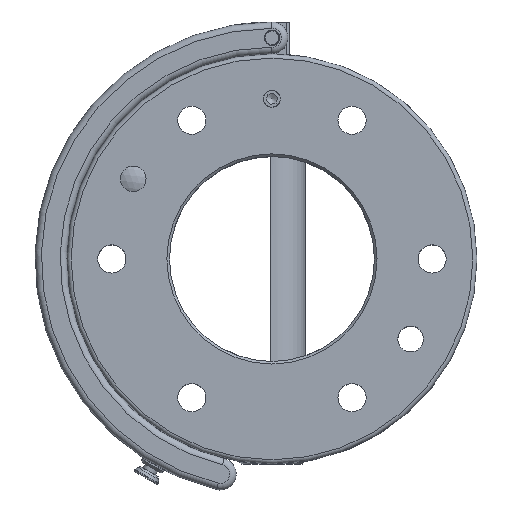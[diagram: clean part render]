
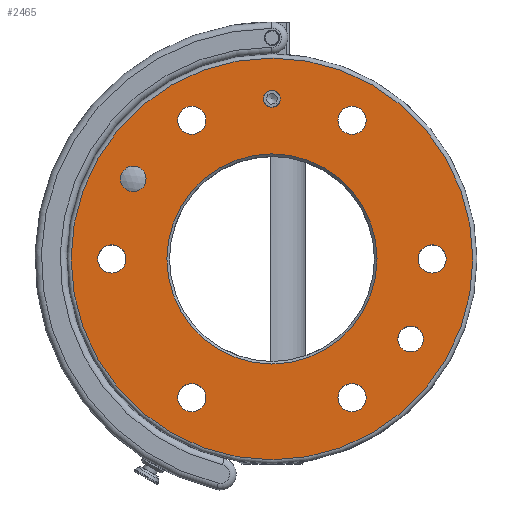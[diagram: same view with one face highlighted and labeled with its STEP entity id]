
A CAD part, top view. The second image highlights one B-rep face of the part: STEP entity #2465.
In plain terms, the highlighted planar face has unit normal (0, 0, 1).
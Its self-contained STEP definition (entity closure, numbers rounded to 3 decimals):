
#114=FACE_BOUND('',#592,.T.);
#115=FACE_BOUND('',#593,.T.);
#116=FACE_BOUND('',#594,.T.);
#117=FACE_BOUND('',#595,.T.);
#118=FACE_BOUND('',#596,.T.);
#119=FACE_BOUND('',#597,.T.);
#120=FACE_BOUND('',#598,.T.);
#121=FACE_BOUND('',#599,.T.);
#122=FACE_BOUND('',#600,.T.);
#123=FACE_BOUND('',#601,.T.);
#400=PLANE('',#2648);
#447=FACE_OUTER_BOUND('',#591,.T.);
#591=EDGE_LOOP('',(#1628));
#592=EDGE_LOOP('',(#1629));
#593=EDGE_LOOP('',(#1630));
#594=EDGE_LOOP('',(#1631));
#595=EDGE_LOOP('',(#1632));
#596=EDGE_LOOP('',(#1633));
#597=EDGE_LOOP('',(#1634));
#598=EDGE_LOOP('',(#1635));
#599=EDGE_LOOP('',(#1636,#1637));
#600=EDGE_LOOP('',(#1638,#1639));
#601=EDGE_LOOP('',(#1640,#1641));
#783=CIRCLE('',#2647,78.4);
#784=CIRCLE('',#2649,41.);
#785=CIRCLE('',#2650,5.5);
#786=CIRCLE('',#2651,5.5);
#787=CIRCLE('',#2652,5.5);
#788=CIRCLE('',#2653,5.5);
#789=CIRCLE('',#2654,5.5);
#790=CIRCLE('',#2655,5.5);
#791=CIRCLE('',#2656,5.);
#792=CIRCLE('',#2657,5.);
#793=CIRCLE('',#2658,5.);
#794=CIRCLE('',#2659,5.);
#795=CIRCLE('',#2660,3.324);
#796=CIRCLE('',#2661,3.324);
#1014=VERTEX_POINT('',#3814);
#1015=VERTEX_POINT('',#3818);
#1016=VERTEX_POINT('',#3820);
#1017=VERTEX_POINT('',#3822);
#1018=VERTEX_POINT('',#3824);
#1019=VERTEX_POINT('',#3826);
#1020=VERTEX_POINT('',#3828);
#1021=VERTEX_POINT('',#3830);
#1022=VERTEX_POINT('',#3832);
#1023=VERTEX_POINT('',#3833);
#1024=VERTEX_POINT('',#3836);
#1025=VERTEX_POINT('',#3837);
#1026=VERTEX_POINT('',#3840);
#1027=VERTEX_POINT('',#3841);
#1267=EDGE_CURVE('',#1014,#1014,#783,.T.);
#1268=EDGE_CURVE('',#1015,#1015,#784,.T.);
#1269=EDGE_CURVE('',#1016,#1016,#785,.T.);
#1270=EDGE_CURVE('',#1017,#1017,#786,.T.);
#1271=EDGE_CURVE('',#1018,#1018,#787,.T.);
#1272=EDGE_CURVE('',#1019,#1019,#788,.T.);
#1273=EDGE_CURVE('',#1020,#1020,#789,.T.);
#1274=EDGE_CURVE('',#1021,#1021,#790,.T.);
#1275=EDGE_CURVE('',#1022,#1023,#791,.T.);
#1276=EDGE_CURVE('',#1023,#1022,#792,.T.);
#1277=EDGE_CURVE('',#1024,#1025,#793,.T.);
#1278=EDGE_CURVE('',#1025,#1024,#794,.T.);
#1279=EDGE_CURVE('',#1026,#1027,#795,.T.);
#1280=EDGE_CURVE('',#1027,#1026,#796,.T.);
#1628=ORIENTED_EDGE('',*,*,#1267,.F.);
#1629=ORIENTED_EDGE('',*,*,#1268,.F.);
#1630=ORIENTED_EDGE('',*,*,#1269,.T.);
#1631=ORIENTED_EDGE('',*,*,#1270,.T.);
#1632=ORIENTED_EDGE('',*,*,#1271,.T.);
#1633=ORIENTED_EDGE('',*,*,#1272,.T.);
#1634=ORIENTED_EDGE('',*,*,#1273,.T.);
#1635=ORIENTED_EDGE('',*,*,#1274,.T.);
#1636=ORIENTED_EDGE('',*,*,#1275,.T.);
#1637=ORIENTED_EDGE('',*,*,#1276,.T.);
#1638=ORIENTED_EDGE('',*,*,#1277,.T.);
#1639=ORIENTED_EDGE('',*,*,#1278,.T.);
#1640=ORIENTED_EDGE('',*,*,#1279,.T.);
#1641=ORIENTED_EDGE('',*,*,#1280,.T.);
#2465=ADVANCED_FACE('',(#447,#114,#115,#116,#117,#118,#119,#120,#121,#122,
#123),#400,.F.);
#2647=AXIS2_PLACEMENT_3D('',#3816,#3010,#3011);
#2648=AXIS2_PLACEMENT_3D('',#3817,#3012,#3013);
#2649=AXIS2_PLACEMENT_3D('',#3819,#3014,#3015);
#2650=AXIS2_PLACEMENT_3D('',#3821,#3016,#3017);
#2651=AXIS2_PLACEMENT_3D('',#3823,#3018,#3019);
#2652=AXIS2_PLACEMENT_3D('',#3825,#3020,#3021);
#2653=AXIS2_PLACEMENT_3D('',#3827,#3022,#3023);
#2654=AXIS2_PLACEMENT_3D('',#3829,#3024,#3025);
#2655=AXIS2_PLACEMENT_3D('',#3831,#3026,#3027);
#2656=AXIS2_PLACEMENT_3D('',#3834,#3028,#3029);
#2657=AXIS2_PLACEMENT_3D('',#3835,#3030,#3031);
#2658=AXIS2_PLACEMENT_3D('',#3838,#3032,#3033);
#2659=AXIS2_PLACEMENT_3D('',#3839,#3034,#3035);
#2660=AXIS2_PLACEMENT_3D('',#3842,#3036,#3037);
#2661=AXIS2_PLACEMENT_3D('',#3843,#3038,#3039);
#3010=DIRECTION('center_axis',(0.,0.,
-1.));
#3011=DIRECTION('ref_axis',(-1.,0.,0.));
#3012=DIRECTION('center_axis',(0.,0.,
-1.));
#3013=DIRECTION('ref_axis',(-1.,0.,0.));
#3014=DIRECTION('center_axis',(0.,0.,
1.));
#3015=DIRECTION('ref_axis',(-1.,0.,0.));
#3016=DIRECTION('center_axis',(0.,0.,
-1.));
#3017=DIRECTION('ref_axis',(-0.5,-0.866,0.));
#3018=DIRECTION('center_axis',(0.,0.,
-1.));
#3019=DIRECTION('ref_axis',(0.5,-0.866,0.));
#3020=DIRECTION('center_axis',(0.,0.,
-1.));
#3021=DIRECTION('ref_axis',(1.,0.,0.));
#3022=DIRECTION('center_axis',(0.,0.,
-1.));
#3023=DIRECTION('ref_axis',(0.5,0.866,0.));
#3024=DIRECTION('center_axis',(0.,0.,
-1.));
#3025=DIRECTION('ref_axis',(-0.5,0.866,0.));
#3026=DIRECTION('center_axis',(0.,0.,
-1.));
#3027=DIRECTION('ref_axis',(-1.,0.,0.));
#3028=DIRECTION('center_axis',(0.,0.,
-1.));
#3029=DIRECTION('ref_axis',(1.,0.,0.));
#3030=DIRECTION('center_axis',(0.,0.,
-1.));
#3031=DIRECTION('ref_axis',(1.,0.,0.));
#3032=DIRECTION('center_axis',(0.,0.,
-1.));
#3033=DIRECTION('ref_axis',(1.,0.,0.));
#3034=DIRECTION('center_axis',(0.,0.,
-1.));
#3035=DIRECTION('ref_axis',(1.,0.,0.));
#3036=DIRECTION('center_axis',(0.,0.,
-1.));
#3037=DIRECTION('ref_axis',(1.,0.,0.));
#3038=DIRECTION('center_axis',(0.,0.,
-1.));
#3039=DIRECTION('ref_axis',(1.,0.,0.));
#3814=CARTESIAN_POINT('',(78.4,0.,0.));
#3816=CARTESIAN_POINT('Origin',(0.,0.,0.));
#3817=CARTESIAN_POINT('Origin',(0.,0.,0.));
#3818=CARTESIAN_POINT('',(41.,0.,0.));
#3819=CARTESIAN_POINT('Origin',(0.,0.,0.));
#3820=CARTESIAN_POINT('',(-28.5,-49.363,0.));
#3821=CARTESIAN_POINT('Origin',(-31.25,-54.127,0.));
#3822=CARTESIAN_POINT('',(28.5,-49.363,0.));
#3823=CARTESIAN_POINT('Origin',(31.25,-54.127,0.));
#3824=CARTESIAN_POINT('',(57.,0.,0.));
#3825=CARTESIAN_POINT('Origin',(62.5,0.,0.));
#3826=CARTESIAN_POINT('',(28.5,49.363,0.));
#3827=CARTESIAN_POINT('Origin',(31.25,54.127,0.));
#3828=CARTESIAN_POINT('',(-28.5,49.363,0.));
#3829=CARTESIAN_POINT('Origin',(-31.25,54.127,0.));
#3830=CARTESIAN_POINT('',(-57.,0.,0.));
#3831=CARTESIAN_POINT('Origin',(-62.5,0.,0.));
#3832=CARTESIAN_POINT('',(-49.127,31.25,0.));
#3833=CARTESIAN_POINT('',(-59.127,31.25,0.));
#3834=CARTESIAN_POINT('Origin',(-54.127,31.25,0.));
#3835=CARTESIAN_POINT('Origin',(-54.127,31.25,0.));
#3836=CARTESIAN_POINT('',(59.127,-31.25,0.));
#3837=CARTESIAN_POINT('',(49.127,-31.25,0.));
#3838=CARTESIAN_POINT('Origin',(54.127,-31.25,0.));
#3839=CARTESIAN_POINT('Origin',(54.127,-31.25,0.));
#3840=CARTESIAN_POINT('',(3.324,62.5,0.));
#3841=CARTESIAN_POINT('',(-3.324,62.5,0.));
#3842=CARTESIAN_POINT('Origin',(0.,62.5,0.));
#3843=CARTESIAN_POINT('Origin',(0.,62.5,0.));
